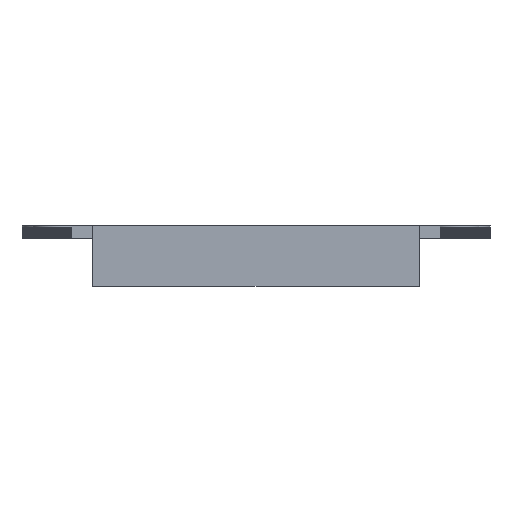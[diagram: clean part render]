
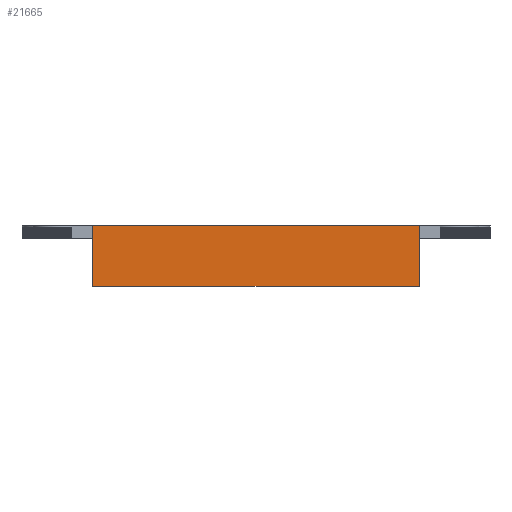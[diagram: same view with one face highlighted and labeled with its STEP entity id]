
A CAD part, front view. The second image highlights one B-rep face of the part: STEP entity #21665.
In plain terms, the highlighted planar face has unit normal (0, -1, 0).
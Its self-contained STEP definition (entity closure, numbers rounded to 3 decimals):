
#72 = PLANE('',#73);
#73 = AXIS2_PLACEMENT_3D('',#74,#75,#76);
#74 = CARTESIAN_POINT('',(112.5,10.179,7.));
#75 = DIRECTION('',(-0.,-0.,-1.));
#76 = DIRECTION('',(-1.,0.,0.));
#13985 = VERTEX_POINT('',#13986);
#13986 = CARTESIAN_POINT('',(205.,-17.34,7.));
#14000 = PLANE('',#14001);
#14001 = AXIS2_PLACEMENT_3D('',#14002,#14003,#14004);
#14002 = CARTESIAN_POINT('',(205.,-17.34,-9.));
#14003 = DIRECTION('',(1.,0.,0.));
#14004 = DIRECTION('',(0.,0.,1.));
#14012 = EDGE_CURVE('',#14013,#13985,#14015,.T.);
#14013 = VERTEX_POINT('',#14014);
#14014 = CARTESIAN_POINT('',(20.,-17.34,7.));
#14015 = SURFACE_CURVE('',#14016,(#14020,#14027),.PCURVE_S1.);
#14016 = LINE('',#14017,#14018);
#14017 = CARTESIAN_POINT('',(20.,-17.34,7.));
#14018 = VECTOR('',#14019,1.);
#14019 = DIRECTION('',(1.,0.,0.));
#14020 = PCURVE('',#72,#14021);
#14021 = DEFINITIONAL_REPRESENTATION('',(#14022),#14026);
#14022 = LINE('',#14023,#14024);
#14023 = CARTESIAN_POINT('',(92.5,-27.519));
#14024 = VECTOR('',#14025,1.);
#14025 = DIRECTION('',(-1.,0.));
#14026 = ( GEOMETRIC_REPRESENTATION_CONTEXT(2) 
PARAMETRIC_REPRESENTATION_CONTEXT() REPRESENTATION_CONTEXT('2D SPACE',''
  ) );
#14027 = PCURVE('',#14028,#14033);
#14028 = PLANE('',#14029);
#14029 = AXIS2_PLACEMENT_3D('',#14030,#14031,#14032);
#14030 = CARTESIAN_POINT('',(20.,-17.34,-9.));
#14031 = DIRECTION('',(0.,1.,0.));
#14032 = DIRECTION('',(0.,0.,1.));
#14033 = DEFINITIONAL_REPRESENTATION('',(#14034),#14038);
#14034 = LINE('',#14035,#14036);
#14035 = CARTESIAN_POINT('',(16.,0.));
#14036 = VECTOR('',#14037,1.);
#14037 = DIRECTION('',(0.,1.));
#14038 = ( GEOMETRIC_REPRESENTATION_CONTEXT(2) 
PARAMETRIC_REPRESENTATION_CONTEXT() REPRESENTATION_CONTEXT('2D SPACE',''
  ) );
#14056 = PLANE('',#14057);
#14057 = AXIS2_PLACEMENT_3D('',#14058,#14059,#14060);
#14058 = CARTESIAN_POINT('',(20.,-17.34,-9.));
#14059 = DIRECTION('',(1.,0.,0.));
#14060 = DIRECTION('',(0.,0.,1.));
#21563 = EDGE_CURVE('',#14013,#21564,#21566,.T.);
#21564 = VERTEX_POINT('',#21565);
#21565 = CARTESIAN_POINT('',(20.,-17.34,-27.));
#21566 = SURFACE_CURVE('',#21567,(#21571,#21578),.PCURVE_S1.);
#21567 = LINE('',#21568,#21569);
#21568 = CARTESIAN_POINT('',(20.,-17.34,7.));
#21569 = VECTOR('',#21570,1.);
#21570 = DIRECTION('',(0.,0.,-1.));
#21571 = PCURVE('',#14056,#21572);
#21572 = DEFINITIONAL_REPRESENTATION('',(#21573),#21577);
#21573 = LINE('',#21574,#21575);
#21574 = CARTESIAN_POINT('',(16.,0.));
#21575 = VECTOR('',#21576,1.);
#21576 = DIRECTION('',(-1.,0.));
#21577 = ( GEOMETRIC_REPRESENTATION_CONTEXT(2) 
PARAMETRIC_REPRESENTATION_CONTEXT() REPRESENTATION_CONTEXT('2D SPACE',''
  ) );
#21578 = PCURVE('',#14028,#21579);
#21579 = DEFINITIONAL_REPRESENTATION('',(#21580),#21584);
#21580 = LINE('',#21581,#21582);
#21581 = CARTESIAN_POINT('',(16.,0.));
#21582 = VECTOR('',#21583,1.);
#21583 = DIRECTION('',(-1.,0.));
#21584 = ( GEOMETRIC_REPRESENTATION_CONTEXT(2) 
PARAMETRIC_REPRESENTATION_CONTEXT() REPRESENTATION_CONTEXT('2D SPACE',''
  ) );
#21602 = PLANE('',#21603);
#21603 = AXIS2_PLACEMENT_3D('',#21604,#21605,#21606);
#21604 = CARTESIAN_POINT('',(20.,-17.34,-27.));
#21605 = DIRECTION('',(0.,0.,1.));
#21606 = DIRECTION('',(1.,0.,0.));
#21665 = ADVANCED_FACE('',(#21666),#14028,.F.);
#21666 = FACE_BOUND('',#21667,.F.);
#21667 = EDGE_LOOP('',(#21668,#21691,#21712,#21713));
#21668 = ORIENTED_EDGE('',*,*,#21669,.T.);
#21669 = EDGE_CURVE('',#13985,#21670,#21672,.T.);
#21670 = VERTEX_POINT('',#21671);
#21671 = CARTESIAN_POINT('',(205.,-17.34,-27.));
#21672 = SURFACE_CURVE('',#21673,(#21677,#21684),.PCURVE_S1.);
#21673 = LINE('',#21674,#21675);
#21674 = CARTESIAN_POINT('',(205.,-17.34,7.));
#21675 = VECTOR('',#21676,1.);
#21676 = DIRECTION('',(0.,0.,-1.));
#21677 = PCURVE('',#14028,#21678);
#21678 = DEFINITIONAL_REPRESENTATION('',(#21679),#21683);
#21679 = LINE('',#21680,#21681);
#21680 = CARTESIAN_POINT('',(16.,185.));
#21681 = VECTOR('',#21682,1.);
#21682 = DIRECTION('',(-1.,0.));
#21683 = ( GEOMETRIC_REPRESENTATION_CONTEXT(2) 
PARAMETRIC_REPRESENTATION_CONTEXT() REPRESENTATION_CONTEXT('2D SPACE',''
  ) );
#21684 = PCURVE('',#14000,#21685);
#21685 = DEFINITIONAL_REPRESENTATION('',(#21686),#21690);
#21686 = LINE('',#21687,#21688);
#21687 = CARTESIAN_POINT('',(16.,0.));
#21688 = VECTOR('',#21689,1.);
#21689 = DIRECTION('',(-1.,0.));
#21690 = ( GEOMETRIC_REPRESENTATION_CONTEXT(2) 
PARAMETRIC_REPRESENTATION_CONTEXT() REPRESENTATION_CONTEXT('2D SPACE',''
  ) );
#21691 = ORIENTED_EDGE('',*,*,#21692,.F.);
#21692 = EDGE_CURVE('',#21564,#21670,#21693,.T.);
#21693 = SURFACE_CURVE('',#21694,(#21698,#21705),.PCURVE_S1.);
#21694 = LINE('',#21695,#21696);
#21695 = CARTESIAN_POINT('',(20.,-17.34,-27.));
#21696 = VECTOR('',#21697,1.);
#21697 = DIRECTION('',(1.,0.,0.));
#21698 = PCURVE('',#14028,#21699);
#21699 = DEFINITIONAL_REPRESENTATION('',(#21700),#21704);
#21700 = LINE('',#21701,#21702);
#21701 = CARTESIAN_POINT('',(-18.,0.));
#21702 = VECTOR('',#21703,1.);
#21703 = DIRECTION('',(0.,1.));
#21704 = ( GEOMETRIC_REPRESENTATION_CONTEXT(2) 
PARAMETRIC_REPRESENTATION_CONTEXT() REPRESENTATION_CONTEXT('2D SPACE',''
  ) );
#21705 = PCURVE('',#21602,#21706);
#21706 = DEFINITIONAL_REPRESENTATION('',(#21707),#21711);
#21707 = LINE('',#21708,#21709);
#21708 = CARTESIAN_POINT('',(0.,0.));
#21709 = VECTOR('',#21710,1.);
#21710 = DIRECTION('',(1.,0.));
#21711 = ( GEOMETRIC_REPRESENTATION_CONTEXT(2) 
PARAMETRIC_REPRESENTATION_CONTEXT() REPRESENTATION_CONTEXT('2D SPACE',''
  ) );
#21712 = ORIENTED_EDGE('',*,*,#21563,.F.);
#21713 = ORIENTED_EDGE('',*,*,#14012,.T.);
